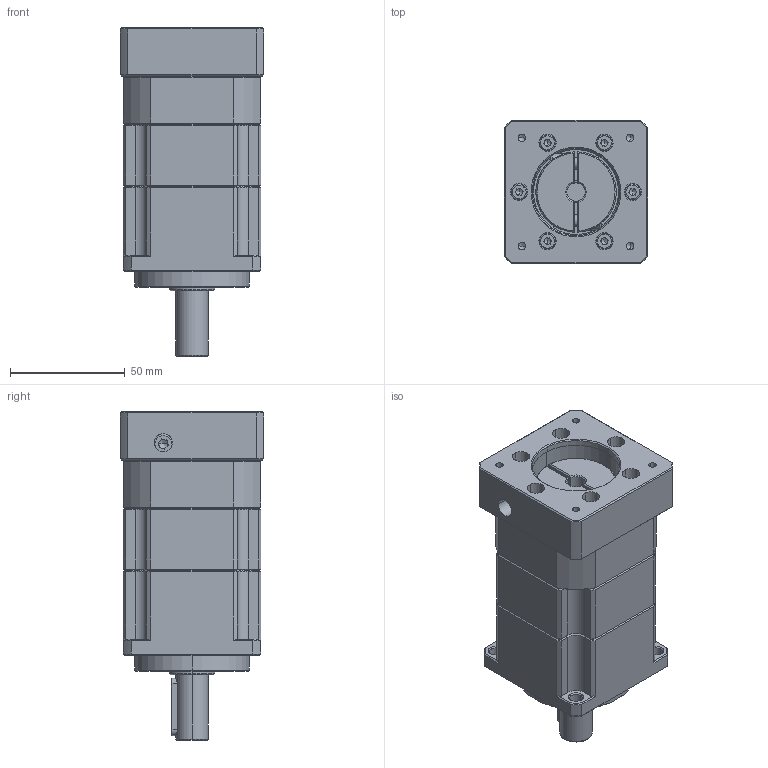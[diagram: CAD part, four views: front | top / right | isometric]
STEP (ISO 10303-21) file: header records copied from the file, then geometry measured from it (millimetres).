
FILE_DESCRIPTION (( 'STEP AP214' ), '1' );
FILE_NAME ('ZPB060-D14-L2-P1-8-38.1-47.14X47.14-M4.step', '2024-04-23T15:39:51', ( 'Windows 蚚誧' ), ( 'Organization' ), 'SwSTEP 2.0', 'SolidWorks 2016', '' );
FILE_SCHEMA (( 'AUTOMOTIVE_DESIGN' ));
Length unit declared in the file: millimetre
Products named in the file (1): ZPB060-D14-L2-P1-8-38.1-47.14X47.14-M4
Bounding box: 62.5 x 62.5 x 143 mm (x, y, z)
Volume: 330170.9 mm3; surface area: 74206.2 mm2
Topology: 13 solids, 21 shells, 1952 faces, 5170 edges, 3323 vertices
Faces by surface type: plane 1082, bspline 373, cylinder 285, cone 196, torus 16
Entity records: 99806 total; most frequent: CARTESIAN_POINT 32371, ORIENTED_EDGE 10232, DIRECTION 8143, EDGE_CURVE 5116, LINE 3381, VECTOR 3381, VERTEX_POINT 3323, AXIS2_PLACEMENT_3D 2381
